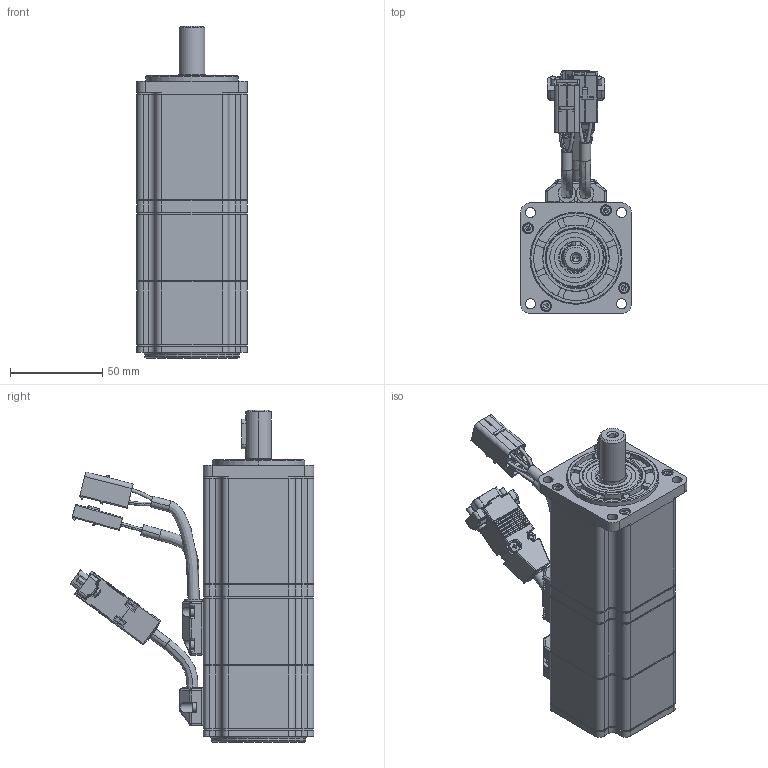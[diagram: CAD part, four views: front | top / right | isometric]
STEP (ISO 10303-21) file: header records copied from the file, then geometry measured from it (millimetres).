
FILE_DESCRIPTION (( 'STEP AP203' ), '1' );
FILE_NAME ('淕儂蚾饜.STEP', '2020-08-10T01:22:47', ( 'admin' ), ( '' ), 'SwSTEP 2.0', 'SolidWorks 2016', '' );
FILE_SCHEMA (( 'CONFIG_CONTROL_DESIGN' ));
Products named in the file (1): 淕儂蚾饜
Bounding box: 60 x 132.21 x 180.2 mm (x, y, z)
Volume: 204433 mm3; surface area: 151722.6 mm2
Topology: 53 solids, 53 shells, 2997 faces, 7970 edges, 4952 vertices
Faces by surface type: cylinder 1324, plane 1077, cone 165, torus 155, sphere 144, bspline 132
Entity records: 98142 total; most frequent: CARTESIAN_POINT 24783, DIRECTION 15678, ORIENTED_EDGE 15268, EDGE_CURVE 7634, AXIS2_PLACEMENT_3D 5955, VERTEX_POINT 4846, VECTOR 3768, LINE 3768
